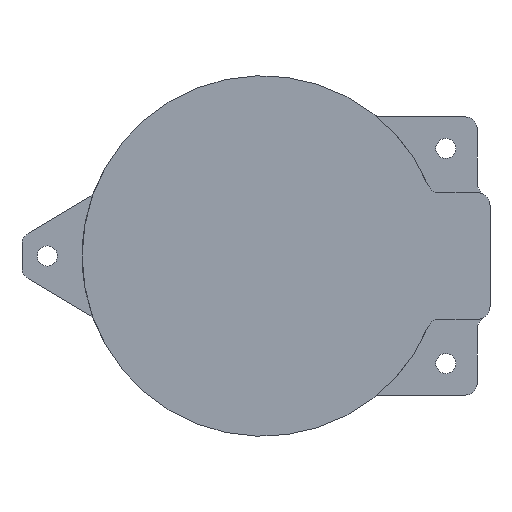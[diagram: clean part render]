
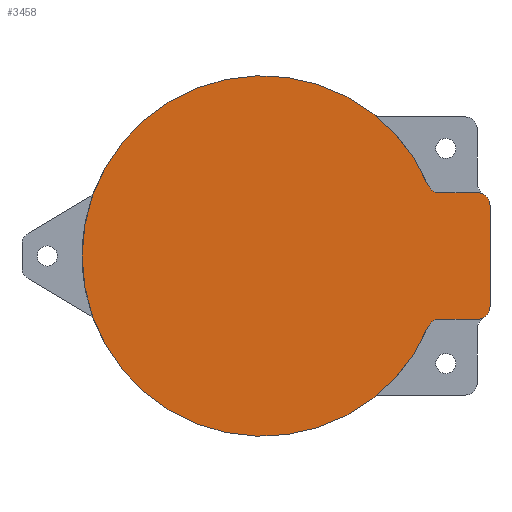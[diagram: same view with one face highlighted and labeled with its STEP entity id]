
A CAD part, front view. The second image highlights one B-rep face of the part: STEP entity #3458.
In plain terms, the highlighted planar face has unit normal (0, -1, 0).
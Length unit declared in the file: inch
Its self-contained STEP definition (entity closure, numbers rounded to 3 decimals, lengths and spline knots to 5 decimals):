
#2=CARTESIAN_POINT('',(4.2482,0.,1.));
#3=DIRECTION('',(0.,-1.,0.));
#4=DIRECTION('',(1.,0.,0.));
#5=AXIS2_PLACEMENT_3D('',#2,#3,#4);
#7=CARTESIAN_POINT('',(4.2482,0.,-1.));
#8=DIRECTION('',(0.,-1.,0.));
#9=DIRECTION('',(0.,0.,-1.));
#10=AXIS2_PLACEMENT_3D('',#7,#8,#9);
#12=DIRECTION('',(1.,0.,0.));
#13=VECTOR('',#12,0.74318);
#14=CARTESIAN_POINT('',(3.50502,0.,-1.25));
#15=LINE('',#14,#13);
#16=CARTESIAN_POINT('',(0.,0.,0.));
#17=DIRECTION('',(0.,-1.,0.));
#18=DIRECTION('',(0.919,0.,0.393));
#19=AXIS2_PLACEMENT_3D('',#16,#17,#18);
#21=DIRECTION('',(-1.,0.,0.));
#22=VECTOR('',#21,0.74318);
#23=CARTESIAN_POINT('',(4.2482,0.,1.25));
#24=LINE('',#23,#22);
#418=CARTESIAN_POINT('',(3.50502,0.,1.5));
#419=DIRECTION('',(0.,1.,0.));
#420=DIRECTION('',(0.,0.,-1.));
#421=AXIS2_PLACEMENT_3D('',#418,#419,#420);
#1667=DIRECTION('',(0.,0.,1.));
#1668=VECTOR('',#1667,2.);
#1669=CARTESIAN_POINT('',(4.4982,0.,-1.));
#1670=LINE('',#1669,#1668);
#1793=CARTESIAN_POINT('',(3.50502,0.,-1.5));
#1794=DIRECTION('',(0.,1.,0.));
#1795=DIRECTION('',(-0.919,0.,0.393));
#1796=AXIS2_PLACEMENT_3D('',#1793,#1794,#1795);
#2954=CARTESIAN_POINT('',(3.27518,0.,1.40164));
#2955=CARTESIAN_POINT('',(3.27518,0.,-1.40164));
#2956=VERTEX_POINT('',#2954);
#2957=VERTEX_POINT('',#2955);
#2958=CARTESIAN_POINT('',(3.50502,0.,1.25));
#2959=VERTEX_POINT('',#2958);
#2960=CARTESIAN_POINT('',(3.50502,0.,-1.25));
#2961=VERTEX_POINT('',#2960);
#2962=CARTESIAN_POINT('',(4.4982,0.,1.));
#2963=CARTESIAN_POINT('',(4.2482,0.,1.25));
#2964=VERTEX_POINT('',#2962);
#2965=VERTEX_POINT('',#2963);
#2966=CARTESIAN_POINT('',(4.2482,0.,-1.25));
#2967=CARTESIAN_POINT('',(4.4982,0.,-1.));
#2968=VERTEX_POINT('',#2966);
#2969=VERTEX_POINT('',#2967);
#3435=CARTESIAN_POINT('',(0.,0.,0.));
#3436=DIRECTION('',(0.,1.,0.));
#3437=DIRECTION('',(1.,0.,0.));
#3438=AXIS2_PLACEMENT_3D('',#3435,#3436,#3437);
#3439=PLANE('',#3438);
#3441=ORIENTED_EDGE('',*,*,#3440,.F.);
#3443=ORIENTED_EDGE('',*,*,#3442,.F.);
#3445=ORIENTED_EDGE('',*,*,#3444,.F.);
#3447=ORIENTED_EDGE('',*,*,#3446,.F.);
#3449=ORIENTED_EDGE('',*,*,#3448,.F.);
#3451=ORIENTED_EDGE('',*,*,#3450,.F.);
#3453=ORIENTED_EDGE('',*,*,#3452,.F.);
#3455=ORIENTED_EDGE('',*,*,#3454,.F.);
#3456=EDGE_LOOP('',(#3441,#3443,#3445,#3447,#3449,#3451,#3453,#3455));
#3457=FACE_OUTER_BOUND('',#3456,.F.);
#6=CIRCLE('',#5,0.25);
#11=CIRCLE('',#10,0.25);
#20=CIRCLE('',#19,3.5625);
#422=CIRCLE('',#421,0.25);
#1797=CIRCLE('',#1796,0.25);
#3440=EDGE_CURVE('',#2964,#2965,#6,.T.);
#3442=EDGE_CURVE('',#2969,#2964,#1670,.T.);
#3444=EDGE_CURVE('',#2968,#2969,#11,.T.);
#3446=EDGE_CURVE('',#2961,#2968,#15,.T.);
#3448=EDGE_CURVE('',#2957,#2961,#1797,.T.);
#3450=EDGE_CURVE('',#2956,#2957,#20,.T.);
#3452=EDGE_CURVE('',#2959,#2956,#422,.T.);
#3454=EDGE_CURVE('',#2965,#2959,#24,.T.);
#3458=ADVANCED_FACE('',(#3457),#3439,.F.);
